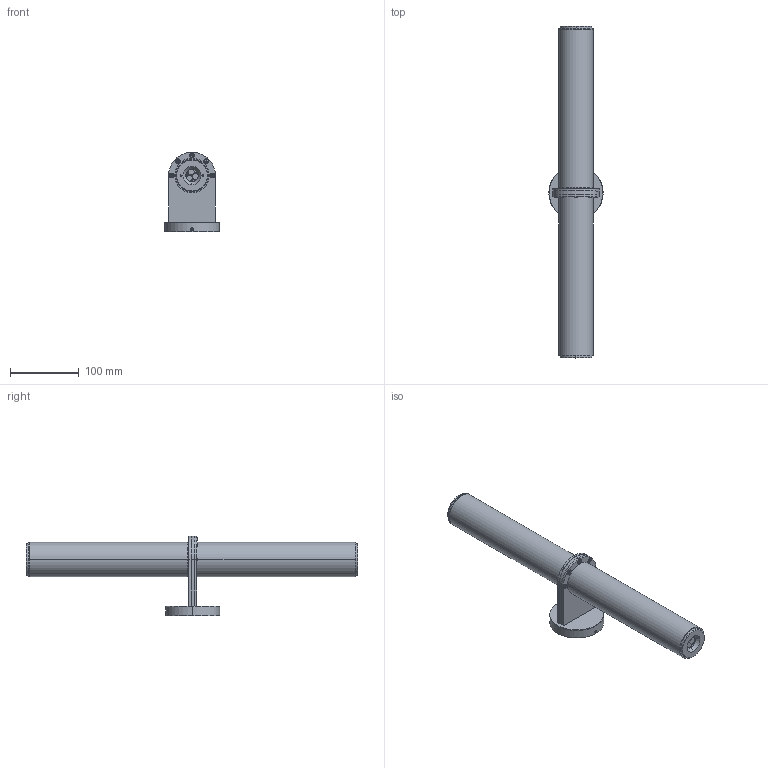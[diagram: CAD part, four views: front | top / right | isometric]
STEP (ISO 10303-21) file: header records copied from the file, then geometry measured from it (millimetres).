
FILE_DESCRIPTION (( 'STEP AP203' ), '1' );
FILE_NAME ('FBN05.LA02.AF01.R00 Render.STEP', '2025-05-05T14:20:32', ( '' ), ( '' ), 'SwSTEP 2.0', 'SolidWorks 2024', '' );
FILE_SCHEMA (( 'CONFIG_CONTROL_DESIGN' ));
Length unit declared in the file: millimetre
Products named in the file (21): FBN05.LA02.C002.R00; socket countersunk head screw_1_iso_ISO 10642 - M5 x 12 - 12C; FBN05.LA02.C013.R00; FBN05.LA02.C004.R00; FBN05.LA02.AS01.R00; FBN05.LA02.C008.R00; Lente LED PMMA Ø20 3 posizioni EA LM020.0XX.00; FBN05.LS03.C014.R10; FBN05.LA02.AF01.R00 Render; FBN05.LA02.C006.R00; FBN05.LA02.C007.R00; FBN05.LS03.C007.R10; FBN05.LA02.C005.R00; FBN05.LS04.C015.R10; socket set screw flat point_1_iso_ISO 4026 - M4 x 12-C; FBN05.LA02.C001.R00; Biadesivo Tesa 4965_BIADESIVO TESA 4965 L.20MM; FBN05.LS03.C006.R10; FBN05.LA02.C003.R00; Biadesivo Tesa 4965_BIADESIVO TESA 4965 L.10MM; FBN05.LA02.C012.R00
Assembly tree (34 placements, depth 3):
  FBN05.LA02.AF01.R00 Render
    Biadesivo Tesa 4965_BIADESIVO TESA 4965 L.20MM  x2
    Biadesivo Tesa 4965_BIADESIVO TESA 4965 L.10MM  x2
    socket countersunk head screw_1_iso_ISO 10642 - M5 x 12 - 12C
    socket set screw flat point_1_iso_ISO 4026 - M4 x 12-C  x2
    Lente LED PMMA Ø20 3 posizioni EA LM020.0XX.00
    FBN05.LA02.C005.R00
    FBN05.LA02.C002.R00
    FBN05.LA02.C001.R00
    FBN05.LA02.C003.R00
    FBN05.LS04.C015.R10
    FBN05.LA02.C007.R00
    FBN05.LS03.C006.R10  x2
    FBN05.LS03.C007.R10  x2
    FBN05.LA02.C006.R00
    FBN05.LS03.C014.R10  x10
    FBN05.LA02.C008.R00
    FBN05.LA02.AS01.R00
      FBN05.LA02.C004.R00
    FBN05.LA02.C012.R00
    FBN05.LA02.C013.R00
Bounding box: 79 x 482.85 x 116 mm (x, y, z)
Volume: 287110 mm3; surface area: 258374.7 mm2
Topology: 33 solids, 33 shells, 693 faces, 1667 edges, 1053 vertices
Faces by surface type: cylinder 315, plane 238, cone 98, sphere 40, torus 2
Entity records: 15717 total; most frequent: DIRECTION 2458, CARTESIAN_POINT 2370, ORIENTED_EDGE 2060, EDGE_CURVE 1030, AXIS2_PLACEMENT_3D 970, VERTEX_POINT 666, EDGE_LOOP 556, LINE 518
